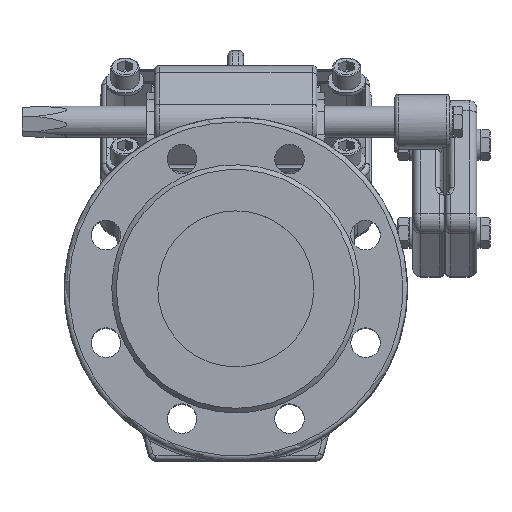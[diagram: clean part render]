
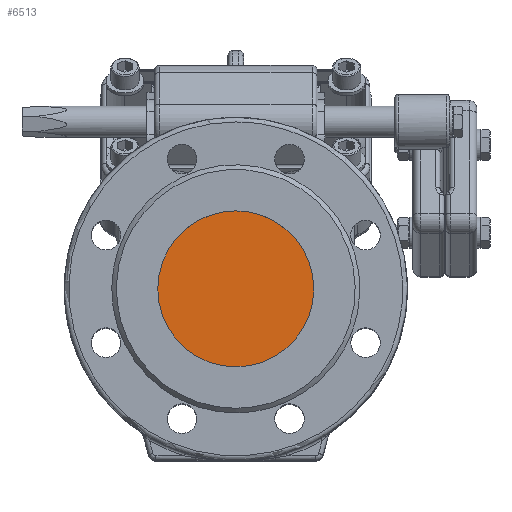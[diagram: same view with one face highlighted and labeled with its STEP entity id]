
A CAD part, top view. The second image highlights one B-rep face of the part: STEP entity #6513.
In plain terms, the highlighted planar face has unit normal (0, 0, 1).
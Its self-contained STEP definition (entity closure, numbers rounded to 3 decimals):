
#6513=ADVANCED_FACE('',(#18890),#18892,.F.);
#18890=FACE_BOUND('',#18891,.T.);
#18891=EDGE_LOOP('',(#26028));
#18892=PLANE('',#18893);
#18893=AXIS2_PLACEMENT_3D('',#18894,#18895,#18896);
#18894=CARTESIAN_POINT('',(-50.,0.,78.24));
#18895=DIRECTION('',(0.,0.,-1.));
#18896=DIRECTION('',(-1.,0.,0.));
#26028=ORIENTED_EDGE('',*,*,#29663,.T.);
#29663=EDGE_CURVE('',#33410,#33410,#33411,.T.);
#33410=VERTEX_POINT('',#57785);
#33411=CIRCLE('',#57786,50.);
#57785=CARTESIAN_POINT('',(0.,-50.,78.24));
#57786=AXIS2_PLACEMENT_3D('',#57787,#57788,#57789);
#57787=CARTESIAN_POINT('',(0.,0.,78.24));
#57788=DIRECTION('',(0.,0.,1.));
#57789=DIRECTION('',(-1.,0.,0.));
